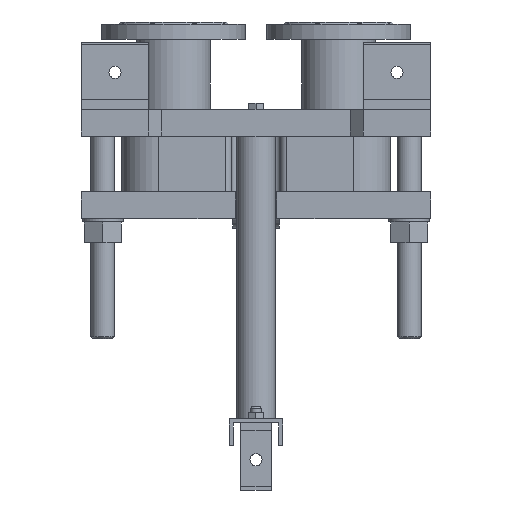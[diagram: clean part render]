
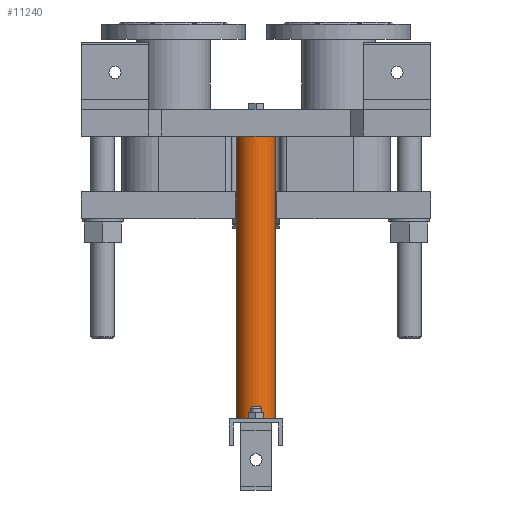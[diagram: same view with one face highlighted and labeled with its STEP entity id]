
A CAD part, front view. The second image highlights one B-rep face of the part: STEP entity #11240.
In plain terms, the highlighted cylindrical face has radius 28.5 mm (diameter 57 mm), a full revolution.
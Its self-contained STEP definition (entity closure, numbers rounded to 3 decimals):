
#781=LINE('',#22043,#1754);
#1754=VECTOR('',#14569,28.5);
#2333=CYLINDRICAL_SURFACE('',#12263,28.5);
#2995=FACE_OUTER_BOUND('',#3777,.T.);
#3777=EDGE_LOOP('',(#9013,#9014,#9015,#9016));
#4462=CIRCLE('',#12264,28.5);
#4463=CIRCLE('',#12265,28.5);
#5286=VERTEX_POINT('',#22040);
#5287=VERTEX_POINT('',#22042);
#6596=EDGE_CURVE('',#5286,#5286,#4462,.T.);
#6597=EDGE_CURVE('',#5286,#5287,#781,.T.);
#6598=EDGE_CURVE('',#5287,#5287,#4463,.T.);
#9013=ORIENTED_EDGE('',*,*,#6596,.F.);
#9014=ORIENTED_EDGE('',*,*,#6597,.T.);
#9015=ORIENTED_EDGE('',*,*,#6598,.T.);
#9016=ORIENTED_EDGE('',*,*,#6597,.F.);
#11240=ADVANCED_FACE('',(#2995),#2333,.T.);
#12263=AXIS2_PLACEMENT_3D('',#22039,#14565,#14566);
#12264=AXIS2_PLACEMENT_3D('',#22041,#14567,#14568);
#12265=AXIS2_PLACEMENT_3D('',#22044,#14570,#14571);
#14565=DIRECTION('center_axis',(0.,0.,
-1.));
#14566=DIRECTION('ref_axis',(-1.,0.,0.));
#14567=DIRECTION('center_axis',(0.,0.,
-1.));
#14568=DIRECTION('ref_axis',(-1.,0.,0.));
#14569=DIRECTION('',(0.,0.,1.));
#14570=DIRECTION('center_axis',(0.,0.,
-1.));
#14571=DIRECTION('ref_axis',(-1.,0.,0.));
#22039=CARTESIAN_POINT('Origin',(0.,215.,0.));
#22040=CARTESIAN_POINT('',(28.5,215.,-421.));
#22041=CARTESIAN_POINT('Origin',(0.,215.,-421.));
#22042=CARTESIAN_POINT('',(28.5,215.,0.));
#22043=CARTESIAN_POINT('',(28.5,215.,0.));
#22044=CARTESIAN_POINT('Origin',(0.,215.,0.));
